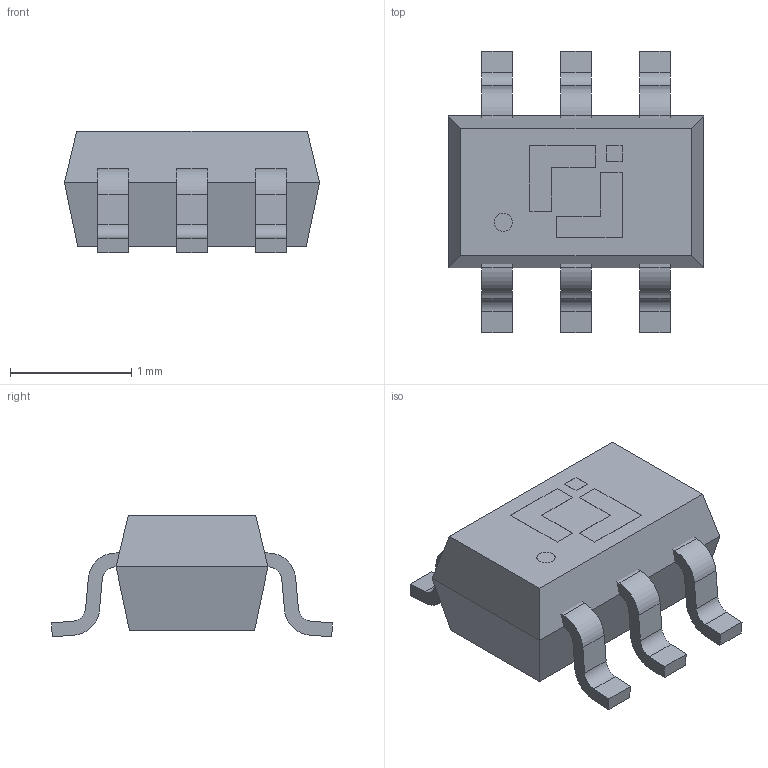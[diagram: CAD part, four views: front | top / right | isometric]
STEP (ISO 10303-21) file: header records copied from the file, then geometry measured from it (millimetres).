
FILE_DESCRIPTION(('HOOPS Exchange Step'),'2;1');
FILE_NAME('C:\Users\JSCJ\AppData\Local\Packages\Shapr3D.Shapr3D_dvv5p1vgwv6mp\TempState\export\temp_export','2025-12-04T10:56:34+08:00',('JSCJ'),('Shapr3D Limited'),'HOOPS Exchange 2025.7','Shapr3D','Authorized');
FILE_SCHEMA( ('AP242_MANAGED_MODEL_BASED_3D_ENGINEERING_MIM_LF {1 0 10303 442 1 1 4}') );
Length unit declared in the file: millimetre
Products named in the file (3): 直线图案 03; 直线图案 02; root
Assembly tree (2 placements, depth 2):
  root
    直线图案 03
    直线图案 02
Bounding box: 2.1 x 2.32 x 1 mm (x, y, z)
Volume: 2.3 mm3; surface area: 14.8 mm2
Topology: 7 solids, 7 shells, 115 faces, 289 edges, 192 vertices
Faces by surface type: plane 90, cylinder 25
Full cylindrical faces by diameter (mm): 0.15 x1
Entity records: 3527 total; most frequent: CARTESIAN_POINT 602, DIRECTION 583, ORIENTED_EDGE 578, EDGE_CURVE 289, VECTOR 237, LINE 237, VERTEX_POINT 192, AXIS2_PLACEMENT_3D 173
